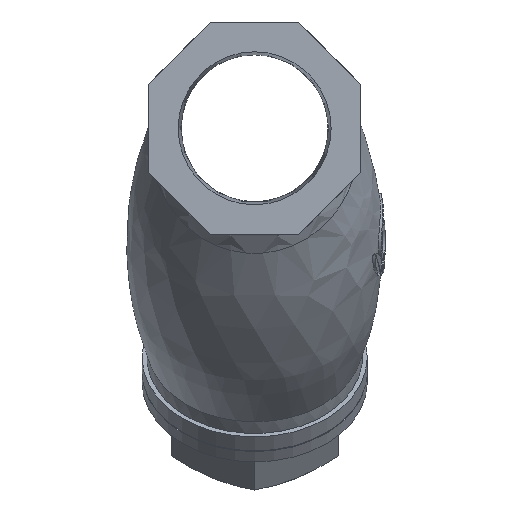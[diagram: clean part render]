
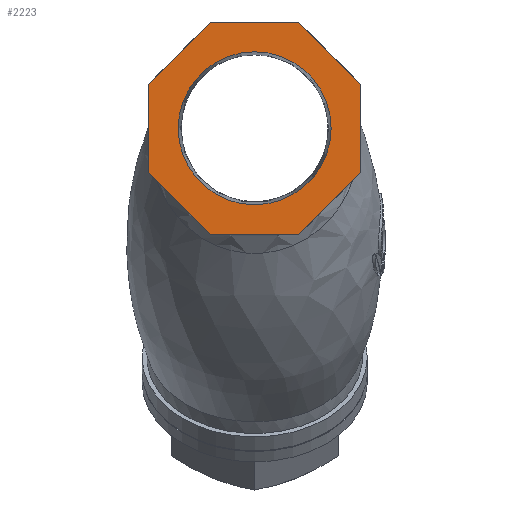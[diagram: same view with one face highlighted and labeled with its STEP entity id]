
A CAD part, front view. The second image highlights one B-rep face of the part: STEP entity #2223.
In plain terms, the highlighted planar face has unit normal (0, -1, 0).
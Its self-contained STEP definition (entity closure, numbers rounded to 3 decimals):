
#115=FACE_BOUND('',#764,.T.);
#116=FACE_BOUND('',#765,.T.);
#192=LINE('',#4200,#311);
#195=LINE('',#4205,#314);
#197=LINE('',#4209,#316);
#199=LINE('',#4213,#318);
#201=LINE('',#4217,#320);
#203=LINE('',#4222,#322);
#205=LINE('',#4226,#324);
#206=LINE('',#4228,#325);
#311=VECTOR('',#2690,17.397);
#314=VECTOR('',#2695,17.397);
#316=VECTOR('',#2699,17.397);
#318=VECTOR('',#2703,17.397);
#320=VECTOR('',#2707,17.397);
#322=VECTOR('',#2713,17.397);
#324=VECTOR('',#2717,17.397);
#325=VECTOR('',#2720,17.397);
#478=PLANE('',#2416);
#764=EDGE_LOOP('',(#2069));
#765=EDGE_LOOP('',(#2070,#2071,#2072,#2073,#2074,#2075,#2076,#2077));
#799=CIRCLE('',#2323,15.112);
#1036=VERTEX_POINT('',#4114);
#1053=VERTEX_POINT('',#4197);
#1054=VERTEX_POINT('',#4199);
#1055=VERTEX_POINT('',#4203);
#1056=VERTEX_POINT('',#4207);
#1057=VERTEX_POINT('',#4211);
#1058=VERTEX_POINT('',#4215);
#1059=VERTEX_POINT('',#4220);
#1060=VERTEX_POINT('',#4224);
#1287=EDGE_CURVE('',#1036,#1036,#799,.T.);
#1313=EDGE_CURVE('',#1053,#1054,#192,.T.);
#1316=EDGE_CURVE('',#1055,#1053,#195,.T.);
#1318=EDGE_CURVE('',#1056,#1055,#197,.T.);
#1320=EDGE_CURVE('',#1057,#1056,#199,.T.);
#1322=EDGE_CURVE('',#1058,#1057,#201,.T.);
#1324=EDGE_CURVE('',#1059,#1058,#203,.T.);
#1326=EDGE_CURVE('',#1060,#1059,#205,.T.);
#1327=EDGE_CURVE('',#1054,#1060,#206,.T.);
#2069=ORIENTED_EDGE('',*,*,#1287,.T.);
#2070=ORIENTED_EDGE('',*,*,#1316,.F.);
#2071=ORIENTED_EDGE('',*,*,#1318,.F.);
#2072=ORIENTED_EDGE('',*,*,#1320,.F.);
#2073=ORIENTED_EDGE('',*,*,#1322,.F.);
#2074=ORIENTED_EDGE('',*,*,#1324,.F.);
#2075=ORIENTED_EDGE('',*,*,#1326,.F.);
#2076=ORIENTED_EDGE('',*,*,#1327,.F.);
#2077=ORIENTED_EDGE('',*,*,#1313,.F.);
#2223=ADVANCED_FACE('',(#115,#116),#478,.T.);
#2323=AXIS2_PLACEMENT_3D('',#4115,#2653,#2654);
#2416=AXIS2_PLACEMENT_3D('',#4773,#2915,#2916);
#2653=DIRECTION('center_axis',(0.,1.,0.));
#2654=DIRECTION('ref_axis',(1.,0.,0.));
#2690=DIRECTION('',(0.,0.,-1.));
#2695=DIRECTION('',(0.707,0.,-0.707));
#2699=DIRECTION('',(1.,0.,0.));
#2703=DIRECTION('',(0.707,0.,0.707));
#2707=DIRECTION('',(0.,0.,1.));
#2713=DIRECTION('',(-0.707,0.,0.707));
#2717=DIRECTION('',(-1.,0.,0.));
#2720=DIRECTION('',(-0.707,0.,-0.707));
#2915=DIRECTION('center_axis',(0.,-1.,0.));
#2916=DIRECTION('ref_axis',(0.,0.,-1.));
#4114=CARTESIAN_POINT('',(15.112,-54.,0.));
#4115=CARTESIAN_POINT('Origin',(0.,-54.,0.));
#4197=CARTESIAN_POINT('',(21.,-54.,8.698));
#4199=CARTESIAN_POINT('',(21.,-54.,-8.698));
#4200=CARTESIAN_POINT('',(21.,-54.,8.698));
#4203=CARTESIAN_POINT('',(8.698,-54.,21.));
#4205=CARTESIAN_POINT('',(8.698,-54.,21.));
#4207=CARTESIAN_POINT('',(-8.698,-54.,21.));
#4209=CARTESIAN_POINT('',(-8.698,-54.,21.));
#4211=CARTESIAN_POINT('',(-21.,-54.,8.698));
#4213=CARTESIAN_POINT('',(-21.,-54.,8.698));
#4215=CARTESIAN_POINT('',(-21.,-54.,-8.698));
#4217=CARTESIAN_POINT('',(-21.,-54.,-8.698));
#4220=CARTESIAN_POINT('',(-8.698,-54.,-21.));
#4222=CARTESIAN_POINT('',(-8.698,-54.,-21.));
#4224=CARTESIAN_POINT('',(8.698,-54.,-21.));
#4226=CARTESIAN_POINT('',(8.698,-54.,-21.));
#4228=CARTESIAN_POINT('',(21.,-54.,-8.698));
#4773=CARTESIAN_POINT('Origin',(0.,-54.,20.3));
